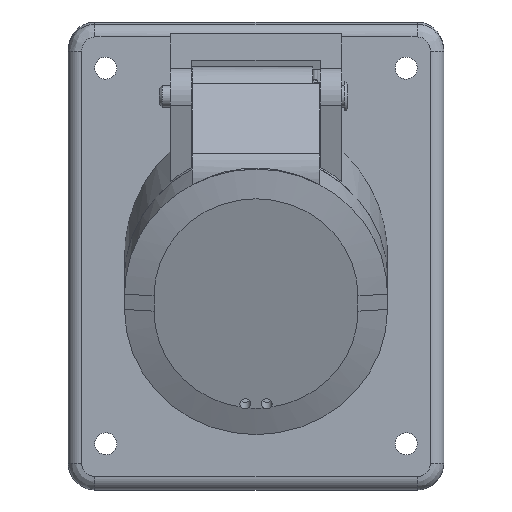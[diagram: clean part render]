
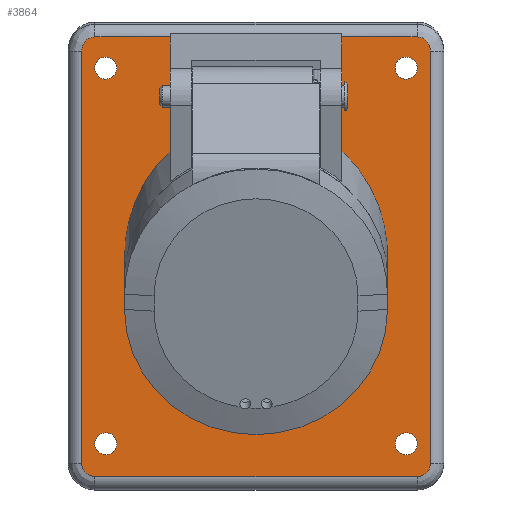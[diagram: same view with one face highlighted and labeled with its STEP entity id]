
A CAD part, top view. The second image highlights one B-rep face of the part: STEP entity #3864.
In plain terms, the highlighted planar face has unit normal (0, 0, 1).
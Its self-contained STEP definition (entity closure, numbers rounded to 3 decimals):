
#360=ELLIPSE('',#18430,2.05,2.05);
#361=ELLIPSE('',#18431,2.05,2.05);
#362=ELLIPSE('',#18432,2.05,2.05);
#363=ELLIPSE('',#18433,2.05,2.05);
#364=ELLIPSE('',#18434,25.761,24.5);
#365=ELLIPSE('',#18435,2.629,2.5);
#366=ELLIPSE('',#18436,2.5,2.5);
#367=ELLIPSE('',#18437,2.5,2.5);
#368=ELLIPSE('',#18438,2.629,2.5);
#1334=FACE_BOUND('',#6402,.T.);
#1335=FACE_BOUND('',#6403,.T.);
#1336=FACE_BOUND('',#6404,.T.);
#1337=FACE_BOUND('',#6405,.T.);
#1338=FACE_BOUND('',#6406,.T.);
#3864=ADVANCED_FACE('',(#1334,#1335,#1336,#1337,#1338),#4361,.F.);
#4361=PLANE('',#18439);
#6402=EDGE_LOOP('',(#10199));
#6403=EDGE_LOOP('',(#10200));
#6404=EDGE_LOOP('',(#10201));
#6405=EDGE_LOOP('',(#10202));
#6406=EDGE_LOOP('',(#10203,#10204,#10205,#10206,#10207,#10208,#10209,#10210,
#10211,#10212,#10213,#10214));
#10199=ORIENTED_EDGE('',*,*,#14589,.F.);
#10200=ORIENTED_EDGE('',*,*,#14590,.F.);
#10201=ORIENTED_EDGE('',*,*,#14591,.F.);
#10202=ORIENTED_EDGE('',*,*,#14592,.F.);
#10203=ORIENTED_EDGE('',*,*,#14593,.T.);
#10204=ORIENTED_EDGE('',*,*,#14594,.F.);
#10205=ORIENTED_EDGE('',*,*,#14595,.F.);
#10206=ORIENTED_EDGE('',*,*,#14596,.T.);
#10207=ORIENTED_EDGE('',*,*,#14597,.T.);
#10208=ORIENTED_EDGE('',*,*,#14598,.T.);
#10209=ORIENTED_EDGE('',*,*,#14599,.T.);
#10210=ORIENTED_EDGE('',*,*,#14600,.T.);
#10211=ORIENTED_EDGE('',*,*,#14601,.T.);
#10212=ORIENTED_EDGE('',*,*,#14602,.T.);
#10213=ORIENTED_EDGE('',*,*,#14603,.T.);
#10214=ORIENTED_EDGE('',*,*,#14604,.T.);
#12501=VERTEX_POINT('',#36807);
#12502=VERTEX_POINT('',#36809);
#12503=VERTEX_POINT('',#36811);
#12504=VERTEX_POINT('',#36813);
#12505=VERTEX_POINT('',#36815);
#12506=VERTEX_POINT('',#36816);
#12507=VERTEX_POINT('',#36818);
#12508=VERTEX_POINT('',#36820);
#12509=VERTEX_POINT('',#36822);
#12510=VERTEX_POINT('',#36824);
#12511=VERTEX_POINT('',#36826);
#12512=VERTEX_POINT('',#36828);
#12513=VERTEX_POINT('',#36830);
#12514=VERTEX_POINT('',#36832);
#12515=VERTEX_POINT('',#36834);
#12516=VERTEX_POINT('',#36836);
#14589=EDGE_CURVE('',#12501,#12501,#360,.T.);
#14590=EDGE_CURVE('',#12502,#12502,#361,.T.);
#14591=EDGE_CURVE('',#12503,#12503,#362,.T.);
#14592=EDGE_CURVE('',#12504,#12504,#363,.T.);
#14593=EDGE_CURVE('',#12505,#12506,#15750,.T.);
#14594=EDGE_CURVE('',#12507,#12506,#364,.T.);
#14595=EDGE_CURVE('',#12508,#12507,#15751,.T.);
#14596=EDGE_CURVE('',#12508,#12509,#15752,.T.);
#14597=EDGE_CURVE('',#12509,#12510,#365,.T.);
#14598=EDGE_CURVE('',#12510,#12511,#15753,.T.);
#14599=EDGE_CURVE('',#12511,#12512,#366,.T.);
#14600=EDGE_CURVE('',#12512,#12513,#15754,.T.);
#14601=EDGE_CURVE('',#12513,#12514,#367,.T.);
#14602=EDGE_CURVE('',#12514,#12515,#15755,.T.);
#14603=EDGE_CURVE('',#12515,#12516,#368,.T.);
#14604=EDGE_CURVE('',#12516,#12505,#15756,.T.);
#15750=LINE('',#36814,#16599);
#15751=LINE('',#36819,#16600);
#15752=LINE('',#36821,#16601);
#15753=LINE('',#36825,#16602);
#15754=LINE('',#36829,#16603);
#15755=LINE('',#36833,#16604);
#15756=LINE('',#36837,#16605);
#16599=VECTOR('',#22752,1.);
#16600=VECTOR('',#22755,1.);
#16601=VECTOR('',#22756,1.);
#16602=VECTOR('',#22759,1.);
#16603=VECTOR('',#22762,1.);
#16604=VECTOR('',#22765,1.);
#16605=VECTOR('',#22768,1.);
#18430=AXIS2_PLACEMENT_3D('',#36806,#22744,#22745);
#18431=AXIS2_PLACEMENT_3D('',#36808,#22746,#22747);
#18432=AXIS2_PLACEMENT_3D('',#36810,#22748,#22749);
#18433=AXIS2_PLACEMENT_3D('',#36812,#22750,#22751);
#18434=AXIS2_PLACEMENT_3D('',#36817,#22753,#22754);
#18435=AXIS2_PLACEMENT_3D('',#36823,#22757,#22758);
#18436=AXIS2_PLACEMENT_3D('',#36827,#22760,#22761);
#18437=AXIS2_PLACEMENT_3D('',#36831,#22763,#22764);
#18438=AXIS2_PLACEMENT_3D('',#36835,#22766,#22767);
#18439=AXIS2_PLACEMENT_3D('',#36838,#22769,#22770);
#22744=DIRECTION('',(0.,0.,1.));
#22745=DIRECTION('',(0.,-1.,0.));
#22746=DIRECTION('',(0.,0.,1.));
#22747=DIRECTION('',(0.,-1.,0.));
#22748=DIRECTION('',(0.,0.,1.));
#22749=DIRECTION('',(0.,-1.,0.));
#22750=DIRECTION('',(0.,0.,1.));
#22751=DIRECTION('',(0.,-1.,0.));
#22752=DIRECTION('',(0.,-1.,0.));
#22753=DIRECTION('',(0.,0.,1.));
#22754=DIRECTION('',(0.,-1.,0.));
#22755=DIRECTION('',(0.,-1.,0.));
#22756=DIRECTION('',(-1.,0.,0.));
#22757=DIRECTION('',(0.,0.,1.));
#22758=DIRECTION('',(0.,-1.,0.));
#22759=DIRECTION('',(0.,-1.,0.));
#22760=DIRECTION('',(0.,0.,1.));
#22761=DIRECTION('',(0.,-1.,0.));
#22762=DIRECTION('',(1.,0.,0.));
#22763=DIRECTION('',(0.,0.,1.));
#22764=DIRECTION('',(0.,1.,0.));
#22765=DIRECTION('',(0.,1.,0.));
#22766=DIRECTION('',(0.,0.,1.));
#22767=DIRECTION('',(0.,1.,0.));
#22768=DIRECTION('',(-1.,0.,0.));
#22769=DIRECTION('',(0.,0.,-1.));
#22770=DIRECTION('',(0.,1.,0.));
#36806=CARTESIAN_POINT('',(27.999,32.074,23.425));
#36807=CARTESIAN_POINT('',(27.999,30.024,23.425));
#36808=CARTESIAN_POINT('',(27.999,-37.926,23.425));
#36809=CARTESIAN_POINT('',(27.999,-39.976,23.425));
#36810=CARTESIAN_POINT('',(-28.001,32.074,23.425));
#36811=CARTESIAN_POINT('',(-28.001,30.024,23.425));
#36812=CARTESIAN_POINT('',(-28.001,-37.926,23.425));
#36813=CARTESIAN_POINT('',(-28.001,-39.976,23.425));
#36814=CARTESIAN_POINT('',(15.999,39.699,23.425));
#36815=CARTESIAN_POINT('',(15.999,37.883,23.425));
#36816=CARTESIAN_POINT('',(15.999,16.583,23.425));
#36817=CARTESIAN_POINT('',(-0.001,-2.926,23.425));
#36818=CARTESIAN_POINT('',(-16.001,16.583,23.425));
#36819=CARTESIAN_POINT('',(-16.001,39.699,23.425));
#36820=CARTESIAN_POINT('',(-16.001,37.883,23.425));
#36821=CARTESIAN_POINT('',(34.999,37.883,23.425));
#36822=CARTESIAN_POINT('',(-30.001,37.883,23.425));
#36823=CARTESIAN_POINT('',(-30.001,35.254,23.425));
#36824=CARTESIAN_POINT('',(-32.501,35.254,23.425));
#36825=CARTESIAN_POINT('',(-32.501,39.699,23.425));
#36826=CARTESIAN_POINT('',(-32.501,-41.525,23.425));
#36827=CARTESIAN_POINT('',(-30.001,-41.525,23.425));
#36828=CARTESIAN_POINT('',(-30.001,-44.025,23.424));
#36829=CARTESIAN_POINT('',(34.999,-44.025,23.424));
#36830=CARTESIAN_POINT('',(29.999,-44.025,23.424));
#36831=CARTESIAN_POINT('',(29.999,-41.525,23.425));
#36832=CARTESIAN_POINT('',(32.499,-41.525,23.425));
#36833=CARTESIAN_POINT('',(32.499,34.442,23.425));
#36834=CARTESIAN_POINT('',(32.499,35.254,23.425));
#36835=CARTESIAN_POINT('',(29.999,35.254,23.425));
#36836=CARTESIAN_POINT('',(29.999,37.883,23.425));
#36837=CARTESIAN_POINT('',(34.999,37.883,23.425));
#36838=CARTESIAN_POINT('',(34.999,39.699,23.425));
